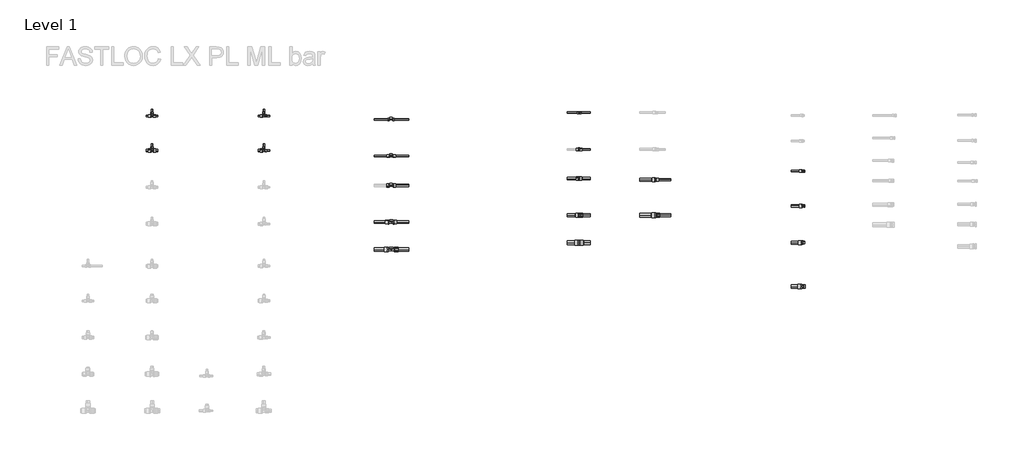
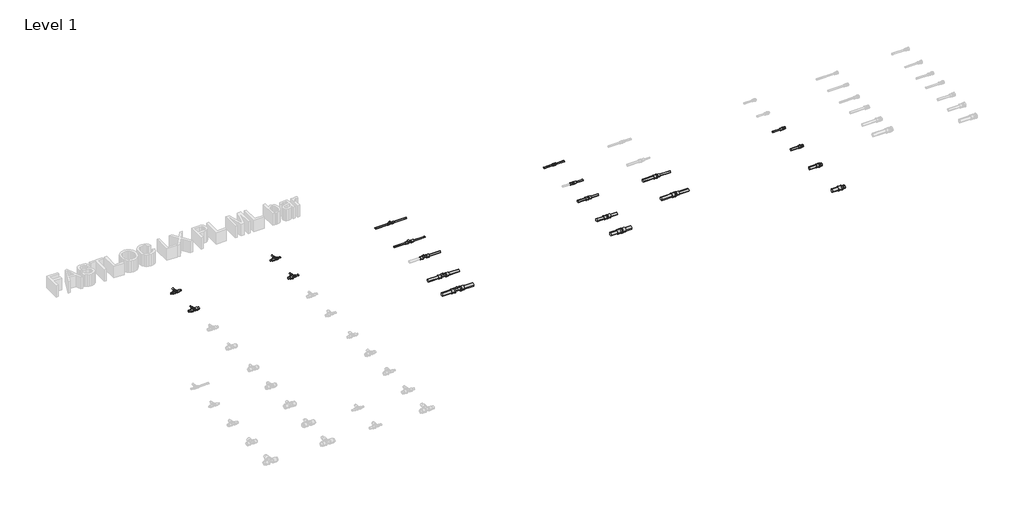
# One storey, part 4 of 78: 38 pipe segments, 20 pipe fittings.
"""IFC4 building model written with IfcOpenShell, lengths in millimetres."""

from ifc_helpers import new_model, si_unit, point, frame, frame_2d, origin, place, context, project, spatial, circle_curve, trimmed, segment, composite_curve, outline, extrude, transform, mapped, element, save
from components import pipe_fitting_027be69e, pipe_fitting_14a26f43, pipe_fitting_91740978, pipe_fitting_5ae7c970, pipe_fitting_e97a97d3, pipe_fitting_8fb58d5f, pipe_fitting_db17a53a, pipe_fitting_d92d4423, pipe_fitting_47d0521d, pipe_fitting_29c4d4eb, pipe_fitting_00caae07, pipe_fitting_1d22680d, pipe_fitting_5e3c5755, pipe_fitting_f5731c1c, pipe_fitting_607ccf76, pipe_fitting_d14a7251, pipe_fitting_ee510fd7, pipe_fitting_a999c26e, pipe_fitting_b01d00d0, pipe_fitting_e8fea69e

model = new_model("IFC4")

# Units and contexts
model_context = context("Model", 3, world=origin())
ifc_project = project(units=[si_unit("LENGTHUNIT", "METRE", prefix="MILLI")], contexts=[model_context])

# Site, building, storey
site = spatial("IfcSite", under=ifc_project)
building = spatial("IfcBuilding", under=site)
storey = spatial("IfcBuildingStorey", under=building, Name="Level 1", Elevation=0.0)

# Pipe fittings
placement = place(None, origin())
pipe_fitting_shape = pipe_fitting_027be69e(model_context)
element("IfcPipeFitting", 1, ObjectType="FASTLOC_Coupling equal LX : FSL C LX PL", at=placement, inside=storey, context=model_context, shape_type="MappedRepresentation", body=[
    mapped(pipe_fitting_shape, transform((5088.3790161, -35505.8821283, 0.0), x_axis=(1.0, 0.0, 0.0), y_axis=(0.0, 1.0, 0.0), z_axis=(0.0, 0.0, 1.0))),
])
pipe_fitting_2_shape = pipe_fitting_14a26f43(model_context)
element("IfcPipeFitting", 2, ObjectType="FASTLOC_Coupling reduced LX : FSL C LX PL", at=placement, inside=storey, context=model_context, shape_type="MappedRepresentation", body=[
    mapped(pipe_fitting_2_shape, transform((5926.6928556, -36625.8821283, 0.0), x_axis=(1.0, 0.0, 0.0), y_axis=(0.0, 1.0, 0.0), z_axis=(0.0, 0.0, 1.0))),
])
pipe_fitting_3_shape = pipe_fitting_91740978(model_context)
element("IfcPipeFitting", 3, ObjectType="FASTLOC_T-piece internal thread LX : FSL T thread LX PL", at=placement, inside=storey, context=model_context, shape_type="MappedRepresentation", body=[
    mapped(pipe_fitting_3_shape, transform((3036.609585, -36699.8272875, 0.0), x_axis=(1.0, 0.0, 0.0), y_axis=(0.0, 1.0, 0.0), z_axis=(0.0, 0.0, 1.0))),
])
pipe_fitting_4_shape = pipe_fitting_5ae7c970(model_context)
element("IfcPipeFitting", 4, ObjectType="FASTLOC_T-piece_LX : FSL T-Piece LX PL", at=placement, inside=storey, context=model_context, shape_type="MappedRepresentation", body=[
    mapped(pipe_fitting_4_shape, transform((426.7498072, -35540.2405791, 0.0), x_axis=(1.0, 0.0, 0.0), y_axis=(0.0, 1.0, 0.0), z_axis=(0.0, 0.0, 1.0))),
])
pipe_fitting_5_shape = pipe_fitting_e97a97d3(model_context)
element("IfcPipeFitting", 5, ObjectType="FASTLOC_T-piece_LX : FSL T-Piece LX PL", at=placement, inside=storey, context=model_context, shape_type="MappedRepresentation", body=[
    mapped(pipe_fitting_5_shape, transform((426.7498072, -35920.2405791, 0.0), x_axis=(1.0, 0.0, 0.0), y_axis=(0.0, 1.0, 0.0), z_axis=(0.0, 0.0, 1.0))),
])
pipe_fitting_6_shape = pipe_fitting_8fb58d5f(model_context)
element("IfcPipeFitting", 6, ObjectType="FASTLOC_T-piece_LX : FSL T-Piece LX PL", at=placement, inside=storey, context=model_context, shape_type="MappedRepresentation", body=[
    mapped(pipe_fitting_6_shape, transform((1646.7498072, -35540.2405791, 0.0), x_axis=(1.0, 0.0, 0.0), y_axis=(0.0, 1.0, 0.0), z_axis=(0.0, 0.0, 1.0))),
])
pipe_fitting_7_shape = pipe_fitting_db17a53a(model_context)
element("IfcPipeFitting", 7, ObjectType="FASTLOC_T-piece_LX : FSL T-Piece LX PL", at=placement, inside=storey, context=model_context, shape_type="MappedRepresentation", body=[
    mapped(pipe_fitting_7_shape, transform((1646.7498072, -35920.2405791, 0.0), x_axis=(1.0, 0.0, 0.0), y_axis=(0.0, 1.0, 0.0), z_axis=(0.0, 0.0, 1.0))),
])
pipe_fitting_8_shape = pipe_fitting_d92d4423(model_context)
element("IfcPipeFitting", 8, ObjectType="FASTLOC_T-piece internal thread LX : FSL T thread LX PL", at=placement, inside=storey, context=model_context, shape_type="MappedRepresentation", body=[
    mapped(pipe_fitting_8_shape, transform((3036.609585, -35579.8272875, 0.0), x_axis=(1.0, 0.0, 0.0), y_axis=(0.0, 1.0, 0.0), z_axis=(0.0, 0.0, 1.0))),
])
pipe_fitting_9_shape = pipe_fitting_47d0521d(model_context)
element("IfcPipeFitting", 9, ObjectType="FASTLOC_T-piece internal thread LX : FSL T thread LX PL", at=placement, inside=storey, context=model_context, shape_type="MappedRepresentation", body=[
    mapped(pipe_fitting_9_shape, transform((3036.609585, -35979.8272875, 0.0), x_axis=(1.0, 0.0, 0.0), y_axis=(0.0, 1.0, 0.0), z_axis=(0.0, 0.0, 1.0))),
])
pipe_fitting_10_shape = pipe_fitting_29c4d4eb(model_context)
element("IfcPipeFitting", 10, ObjectType="FASTLOC_T-piece internal thread LX : FSL T thread LX PL", at=placement, inside=storey, context=model_context, shape_type="MappedRepresentation", body=[
    mapped(pipe_fitting_10_shape, transform((3036.609585, -36299.8272875, 0.0), x_axis=(1.0, 0.0, 0.0), y_axis=(0.0, 1.0, 0.0), z_axis=(0.0, 0.0, 1.0))),
])
pipe_fitting_11_shape = pipe_fitting_00caae07(model_context)
element("IfcPipeFitting", 11, ObjectType="FASTLOC_T-piece internal thread LX : FSL T thread LX PL", at=placement, inside=storey, context=model_context, shape_type="MappedRepresentation", body=[
    mapped(pipe_fitting_11_shape, transform((3036.609585, -36999.8272875, 0.0), x_axis=(1.0, 0.0, 0.0), y_axis=(0.0, 1.0, 0.0), z_axis=(0.0, 0.0, 1.0))),
])
pipe_fitting_12_shape = pipe_fitting_1d22680d(model_context)
element("IfcPipeFitting", 12, ObjectType="FASTLOC_Coupling equal LX : FSL C LX PL", at=placement, inside=storey, context=model_context, shape_type="MappedRepresentation", body=[
    mapped(pipe_fitting_12_shape, transform((5088.3790161, -35905.8821283, 0.0), x_axis=(1.0, 0.0, 0.0), y_axis=(0.0, 1.0, 0.0), z_axis=(0.0, 0.0, 1.0))),
])
pipe_fitting_13_shape = pipe_fitting_5e3c5755(model_context)
element("IfcPipeFitting", 13, ObjectType="FASTLOC_Coupling equal LX : FSL C LX PL", at=placement, inside=storey, context=model_context, shape_type="MappedRepresentation", body=[
    mapped(pipe_fitting_13_shape, transform((5088.3790161, -36225.8821283, 0.0), x_axis=(1.0, 0.0, 0.0), y_axis=(0.0, 1.0, 0.0), z_axis=(0.0, 0.0, 1.0))),
])
pipe_fitting_14_shape = pipe_fitting_f5731c1c(model_context)
element("IfcPipeFitting", 14, ObjectType="FASTLOC_Coupling equal LX : FSL C LX PL", at=placement, inside=storey, context=model_context, shape_type="MappedRepresentation", body=[
    mapped(pipe_fitting_14_shape, transform((5088.3790161, -36625.8821283, 0.0), x_axis=(1.0, 0.0, 0.0), y_axis=(0.0, 1.0, 0.0), z_axis=(0.0, 0.0, 1.0))),
])
pipe_fitting_15_shape = pipe_fitting_607ccf76(model_context)
element("IfcPipeFitting", 15, ObjectType="FASTLOC_Coupling equal LX : FSL C LX PL", at=placement, inside=storey, context=model_context, shape_type="MappedRepresentation", body=[
    mapped(pipe_fitting_15_shape, transform((5088.3790161, -36925.8821283, 0.0), x_axis=(1.0, 0.0, 0.0), y_axis=(0.0, 1.0, 0.0), z_axis=(0.0, 0.0, 1.0))),
])
pipe_fitting_16_shape = pipe_fitting_d14a7251(model_context)
element("IfcPipeFitting", 16, ObjectType="FASTLOC_Coupling reduced LX : FSL C LX PL", at=placement, inside=storey, context=model_context, shape_type="MappedRepresentation", body=[
    mapped(pipe_fitting_16_shape, transform((5926.6928556, -36238.3821283, 0.0), x_axis=(1.0, 0.0, 0.0), y_axis=(0.0, 1.0, 0.0), z_axis=(0.0, 0.0, 1.0))),
])
pipe_fitting_17_shape = pipe_fitting_ee510fd7(model_context)
element("IfcPipeFitting", 17, ObjectType="FASTLOC_Adapter_LX, with external thread : FSL A C external PL", at=placement, inside=storey, context=model_context, shape_type="MappedRepresentation", body=[
    mapped(pipe_fitting_17_shape, transform((7526.8953131, -36144.2068389, 0.0), x_axis=(1.0, 0.0, 0.0), y_axis=(0.0, 1.0, 0.0), z_axis=(0.0, 0.0, 1.0))),
])
pipe_fitting_18_shape = pipe_fitting_a999c26e(model_context)
element("IfcPipeFitting", 18, ObjectType="FASTLOC_Adapter_LX, with external thread : FSL A C external PL", at=placement, inside=storey, context=model_context, shape_type="MappedRepresentation", body=[
    mapped(pipe_fitting_18_shape, transform((7526.8953131, -36524.2068389, 0.0), x_axis=(1.0, 0.0, 0.0), y_axis=(0.0, 1.0, 0.0), z_axis=(0.0, 0.0, 1.0))),
])
pipe_fitting_19_shape = pipe_fitting_b01d00d0(model_context)
element("IfcPipeFitting", 19, ObjectType="FASTLOC_Adapter_LX, with external thread : FSL A C external PL", at=placement, inside=storey, context=model_context, shape_type="MappedRepresentation", body=[
    mapped(pipe_fitting_19_shape, transform((7526.8953131, -36924.2068389, 0.0), x_axis=(1.0, 0.0, 0.0), y_axis=(0.0, 1.0, 0.0), z_axis=(0.0, 0.0, 1.0))),
])
pipe_fitting_20_shape = pipe_fitting_e8fea69e(model_context)
element("IfcPipeFitting", 20, ObjectType="FASTLOC_Adapter_LX, with external thread : FSL A C external PL", at=placement, inside=storey, context=model_context, shape_type="MappedRepresentation", body=[
    mapped(pipe_fitting_20_shape, transform((7526.8953131, -37404.2068389, 0.0), x_axis=(1.0, 0.0, 0.0), y_axis=(0.0, 1.0, 0.0), z_axis=(0.0, 0.0, 1.0))),
])

# Pipe segments
element("IfcPipeSegment", 21, ObjectType="FASTLOC LX ML PL bar", at=placement, inside=storey, context=model_context, shape_type="SweptSolid", body=[
    extrude(outline(composite_curve([segment(trimmed(circle_curve(frame_2d((-35540.2405791, 0.0)), 8.0), [point((-35548.2405791, 0.0))], [point((-35540.2405791, 8.0))], False, "CARTESIAN"), True, "CONTINUOUS"), segment(trimmed(circle_curve(frame_2d((-35540.2405791, 0.0)), 8.0), [point((-35540.2405791, 8.0))], [point((-35532.2405791, 0.0))], False, "CARTESIAN"), True, "CONTINUOUS"), segment(trimmed(circle_curve(frame_2d((-35540.2405791, 0.0)), 8.0), [point((-35532.2405791, 0.0))], [point((-35540.2405791, -8.0))], False, "CARTESIAN"), True, "CONTINUOUS"), segment(trimmed(circle_curve(frame_2d((-35540.2405791, 0.0)), 8.0), [point((-35540.2405791, -8.0))], [point((-35548.2405791, 0.0))], False, "CARTESIAN"), True, "CONTINUOUS")], self_intersect=False)), frame((442.0498072, 0.0, 0.0), z_axis=(1.0, 0.0, 0.0), x_axis=(0.0, 1.0, 0.0)), (0.0, 0.0, 1.0), 46.7),
])
element("IfcPipeSegment", 22, ObjectType="FASTLOC LX ML PL bar", at=placement, inside=storey, context=model_context, shape_type="SweptSolid", body=[
    extrude(outline(composite_curve([segment(trimmed(circle_curve(frame_2d((-35540.2405791, 0.0)), 8.0), [point((-35532.2405791, 0.0))], [point((-35540.2405791, -8.0))], False, "CARTESIAN"), True, "CONTINUOUS"), segment(trimmed(circle_curve(frame_2d((-35540.2405791, 0.0)), 8.0), [point((-35540.2405791, -8.0))], [point((-35548.2405791, 0.0))], False, "CARTESIAN"), True, "CONTINUOUS"), segment(trimmed(circle_curve(frame_2d((-35540.2405791, 0.0)), 8.0), [point((-35548.2405791, 0.0))], [point((-35540.2405791, 8.0))], False, "CARTESIAN"), True, "CONTINUOUS"), segment(trimmed(circle_curve(frame_2d((-35540.2405791, 0.0)), 8.0), [point((-35540.2405791, 8.0))], [point((-35532.2405791, 0.0))], False, "CARTESIAN"), True, "CONTINUOUS")], self_intersect=False)), frame((364.7498072, 0.0, 0.0), z_axis=(1.0, 0.0, 0.0), x_axis=(0.0, 1.0, 0.0)), (0.0, 0.0, 1.0), 46.7),
])
element("IfcPipeSegment", 23, ObjectType="FASTLOC LX ML PL bar", at=placement, inside=storey, context=model_context, shape_type="SweptSolid", body=[
    extrude(outline(composite_curve([segment(trimmed(circle_curve(frame_2d((0.0, 426.7498072)), 8.0), [point((0.0, 434.7498072))], [point((8.0, 426.7498072))], False, "CARTESIAN"), True, "CONTINUOUS"), segment(trimmed(circle_curve(frame_2d((0.0, 426.7498072)), 8.0), [point((8.0, 426.7498072))], [point((0.0, 418.7498072))], False, "CARTESIAN"), True, "CONTINUOUS"), segment(trimmed(circle_curve(frame_2d((0.0, 426.7498072)), 8.0), [point((0.0, 418.7498072))], [point((-8.0, 426.7498072))], False, "CARTESIAN"), True, "CONTINUOUS"), segment(trimmed(circle_curve(frame_2d((0.0, 426.7498072)), 8.0), [point((-8.0, 426.7498072))], [point((0.0, 434.7498072))], False, "CARTESIAN"), True, "CONTINUOUS")], self_intersect=False)), frame((0.0, -35513.9405791, 0.0), z_axis=(0.0, 1.0, 0.0), x_axis=(0.0, 0.0, 1.0)), (0.0, 0.0, 1.0), 46.0),
])
element("IfcPipeSegment", 24, ObjectType="FASTLOC LX ML PL bar", at=placement, inside=storey, context=model_context, shape_type="SweptSolid", body=[
    extrude(outline(composite_curve([segment(trimmed(circle_curve(frame_2d((-35920.2405791, 0.0)), 12.5), [point((-35932.7405791, 0.0))], [point((-35920.2405791, 12.5))], False, "CARTESIAN"), True, "CONTINUOUS"), segment(trimmed(circle_curve(frame_2d((-35920.2405791, 0.0)), 12.5), [point((-35920.2405791, 12.5))], [point((-35907.7405791, 0.0))], False, "CARTESIAN"), True, "CONTINUOUS"), segment(trimmed(circle_curve(frame_2d((-35920.2405791, 0.0)), 12.5), [point((-35907.7405791, 0.0))], [point((-35920.2405791, -12.5))], False, "CARTESIAN"), True, "CONTINUOUS"), segment(trimmed(circle_curve(frame_2d((-35920.2405791, 0.0)), 12.5), [point((-35920.2405791, -12.5))], [point((-35932.7405791, 0.0))], False, "CARTESIAN"), True, "CONTINUOUS")], self_intersect=False)), frame((442.9498072, 0.0, 0.0), z_axis=(1.0, 0.0, 0.0), x_axis=(0.0, 1.0, 0.0)), (0.0, 0.0, 1.0), 45.8),
])
element("IfcPipeSegment", 25, ObjectType="FASTLOC LX ML PL bar", at=placement, inside=storey, context=model_context, shape_type="SweptSolid", body=[
    extrude(outline(composite_curve([segment(trimmed(circle_curve(frame_2d((-35920.2405791, 0.0)), 12.5), [point((-35907.7405791, 0.0))], [point((-35920.2405791, -12.5))], False, "CARTESIAN"), True, "CONTINUOUS"), segment(trimmed(circle_curve(frame_2d((-35920.2405791, 0.0)), 12.5), [point((-35920.2405791, -12.5))], [point((-35932.7405791, 0.0))], False, "CARTESIAN"), True, "CONTINUOUS"), segment(trimmed(circle_curve(frame_2d((-35920.2405791, 0.0)), 12.5), [point((-35932.7405791, 0.0))], [point((-35920.2405791, 12.5))], False, "CARTESIAN"), True, "CONTINUOUS"), segment(trimmed(circle_curve(frame_2d((-35920.2405791, 0.0)), 12.5), [point((-35920.2405791, 12.5))], [point((-35907.7405791, 0.0))], False, "CARTESIAN"), True, "CONTINUOUS")], self_intersect=False)), frame((364.7498072, 0.0, 0.0), z_axis=(1.0, 0.0, 0.0), x_axis=(0.0, 1.0, 0.0)), (0.0, 0.0, 1.0), 45.8),
])
element("IfcPipeSegment", 26, ObjectType="FASTLOC LX ML PL bar", at=placement, inside=storey, context=model_context, shape_type="SweptSolid", body=[
    extrude(outline(composite_curve([segment(trimmed(circle_curve(frame_2d((0.0, 426.7498072)), 8.0), [point((0.0, 434.7498072))], [point((8.0, 426.7498072))], False, "CARTESIAN"), True, "CONTINUOUS"), segment(trimmed(circle_curve(frame_2d((0.0, 426.7498072)), 8.0), [point((8.0, 426.7498072))], [point((0.0, 418.7498072))], False, "CARTESIAN"), True, "CONTINUOUS"), segment(trimmed(circle_curve(frame_2d((0.0, 426.7498072)), 8.0), [point((0.0, 418.7498072))], [point((-8.0, 426.7498072))], False, "CARTESIAN"), True, "CONTINUOUS"), segment(trimmed(circle_curve(frame_2d((0.0, 426.7498072)), 8.0), [point((-8.0, 426.7498072))], [point((0.0, 434.7498072))], False, "CARTESIAN"), True, "CONTINUOUS")], self_intersect=False)), frame((0.0, -35891.2405791, 0.0), z_axis=(0.0, 1.0, 0.0), x_axis=(0.0, 0.0, 1.0)), (0.0, 0.0, 1.0), 43.3),
])
element("IfcPipeSegment", 27, ObjectType="FASTLOC LX ML PL bar", at=placement, inside=storey, context=model_context, shape_type="SweptSolid", body=[
    extrude(outline(composite_curve([segment(trimmed(circle_curve(frame_2d((-35540.2405791, 0.0)), 8.0), [point((-35548.2405791, 0.0))], [point((-35540.2405791, 8.0))], False, "CARTESIAN"), True, "CONTINUOUS"), segment(trimmed(circle_curve(frame_2d((-35540.2405791, 0.0)), 8.0), [point((-35540.2405791, 8.0))], [point((-35532.2405791, 0.0))], False, "CARTESIAN"), True, "CONTINUOUS"), segment(trimmed(circle_curve(frame_2d((-35540.2405791, 0.0)), 8.0), [point((-35532.2405791, 0.0))], [point((-35540.2405791, -8.0))], False, "CARTESIAN"), True, "CONTINUOUS"), segment(trimmed(circle_curve(frame_2d((-35540.2405791, 0.0)), 8.0), [point((-35540.2405791, -8.0))], [point((-35548.2405791, 0.0))], False, "CARTESIAN"), True, "CONTINUOUS")], self_intersect=False)), frame((1661.8498072, 0.0, 0.0), z_axis=(1.0, 0.0, 0.0), x_axis=(0.0, 1.0, 0.0)), (0.0, 0.0, 1.0), 46.9),
])
element("IfcPipeSegment", 28, ObjectType="FASTLOC LX ML PL bar", at=placement, inside=storey, context=model_context, shape_type="SweptSolid", body=[
    extrude(outline(composite_curve([segment(trimmed(circle_curve(frame_2d((-35540.2405791, 0.0)), 8.0), [point((-35532.2405791, 0.0))], [point((-35540.2405791, -8.0))], False, "CARTESIAN"), True, "CONTINUOUS"), segment(trimmed(circle_curve(frame_2d((-35540.2405791, 0.0)), 8.0), [point((-35540.2405791, -8.0))], [point((-35548.2405791, 0.0))], False, "CARTESIAN"), True, "CONTINUOUS"), segment(trimmed(circle_curve(frame_2d((-35540.2405791, 0.0)), 8.0), [point((-35548.2405791, 0.0))], [point((-35540.2405791, 8.0))], False, "CARTESIAN"), True, "CONTINUOUS"), segment(trimmed(circle_curve(frame_2d((-35540.2405791, 0.0)), 8.0), [point((-35540.2405791, 8.0))], [point((-35532.2405791, 0.0))], False, "CARTESIAN"), True, "CONTINUOUS")], self_intersect=False)), frame((1584.7498072, 0.0, 0.0), z_axis=(1.0, 0.0, 0.0), x_axis=(0.0, 1.0, 0.0)), (0.0, 0.0, 1.0), 46.5),
])
element("IfcPipeSegment", 29, ObjectType="FASTLOC LX ML PL bar", at=placement, inside=storey, context=model_context, shape_type="SweptSolid", body=[
    extrude(outline(composite_curve([segment(trimmed(circle_curve(frame_2d((0.0, 1646.7498072)), 8.0), [point((0.0, 1654.7498072))], [point((8.0, 1646.7498072))], False, "CARTESIAN"), True, "CONTINUOUS"), segment(trimmed(circle_curve(frame_2d((0.0, 1646.7498072)), 8.0), [point((8.0, 1646.7498072))], [point((0.0, 1638.7498072))], False, "CARTESIAN"), True, "CONTINUOUS"), segment(trimmed(circle_curve(frame_2d((0.0, 1646.7498072)), 8.0), [point((0.0, 1638.7498072))], [point((-8.0, 1646.7498072))], False, "CARTESIAN"), True, "CONTINUOUS"), segment(trimmed(circle_curve(frame_2d((0.0, 1646.7498072)), 8.0), [point((-8.0, 1646.7498072))], [point((0.0, 1654.7498072))], False, "CARTESIAN"), True, "CONTINUOUS")], self_intersect=False)), frame((0.0, -35513.8405791, 0.0), z_axis=(0.0, 1.0, 0.0), x_axis=(0.0, 0.0, 1.0)), (0.0, 0.0, 1.0), 45.9),
])
element("IfcPipeSegment", 30, ObjectType="FASTLOC LX ML PL bar", at=placement, inside=storey, context=model_context, shape_type="SweptSolid", body=[
    extrude(outline(composite_curve([segment(trimmed(circle_curve(frame_2d((-35920.2405791, 0.0)), 8.0), [point((-35928.2405791, 0.0))], [point((-35920.2405791, 8.0))], False, "CARTESIAN"), True, "CONTINUOUS"), segment(trimmed(circle_curve(frame_2d((-35920.2405791, 0.0)), 8.0), [point((-35920.2405791, 8.0))], [point((-35912.2405791, 0.0))], False, "CARTESIAN"), True, "CONTINUOUS"), segment(trimmed(circle_curve(frame_2d((-35920.2405791, 0.0)), 8.0), [point((-35912.2405791, 0.0))], [point((-35920.2405791, -8.0))], False, "CARTESIAN"), True, "CONTINUOUS"), segment(trimmed(circle_curve(frame_2d((-35920.2405791, 0.0)), 8.0), [point((-35920.2405791, -8.0))], [point((-35928.2405791, 0.0))], False, "CARTESIAN"), True, "CONTINUOUS")], self_intersect=False)), frame((1661.8498072, 0.0, 0.0), z_axis=(1.0, 0.0, 0.0), x_axis=(0.0, 1.0, 0.0)), (0.0, 0.0, 1.0), 46.9),
])
element("IfcPipeSegment", 31, ObjectType="FASTLOC LX ML PL bar", at=placement, inside=storey, context=model_context, shape_type="SweptSolid", body=[
    extrude(outline(composite_curve([segment(trimmed(circle_curve(frame_2d((-35920.2405791, 0.0)), 12.5), [point((-35907.7405791, 0.0))], [point((-35920.2405791, -12.5))], False, "CARTESIAN"), True, "CONTINUOUS"), segment(trimmed(circle_curve(frame_2d((-35920.2405791, 0.0)), 12.5), [point((-35920.2405791, -12.5))], [point((-35932.7405791, 0.0))], False, "CARTESIAN"), True, "CONTINUOUS"), segment(trimmed(circle_curve(frame_2d((-35920.2405791, 0.0)), 12.5), [point((-35932.7405791, 0.0))], [point((-35920.2405791, 12.5))], False, "CARTESIAN"), True, "CONTINUOUS"), segment(trimmed(circle_curve(frame_2d((-35920.2405791, 0.0)), 12.5), [point((-35920.2405791, 12.5))], [point((-35907.7405791, 0.0))], False, "CARTESIAN"), True, "CONTINUOUS")], self_intersect=False)), frame((1584.7498072, 0.0, 0.0), z_axis=(1.0, 0.0, 0.0), x_axis=(0.0, 1.0, 0.0)), (0.0, 0.0, 1.0), 45.6),
])
element("IfcPipeSegment", 32, ObjectType="FASTLOC LX ML PL bar", at=placement, inside=storey, context=model_context, shape_type="SweptSolid", body=[
    extrude(outline(composite_curve([segment(trimmed(circle_curve(frame_2d((0.0, 1646.7498072)), 8.0), [point((0.0, 1654.7498072))], [point((8.0, 1646.7498072))], False, "CARTESIAN"), True, "CONTINUOUS"), segment(trimmed(circle_curve(frame_2d((0.0, 1646.7498072)), 8.0), [point((8.0, 1646.7498072))], [point((0.0, 1638.7498072))], False, "CARTESIAN"), True, "CONTINUOUS"), segment(trimmed(circle_curve(frame_2d((0.0, 1646.7498072)), 8.0), [point((0.0, 1638.7498072))], [point((-8.0, 1646.7498072))], False, "CARTESIAN"), True, "CONTINUOUS"), segment(trimmed(circle_curve(frame_2d((0.0, 1646.7498072)), 8.0), [point((-8.0, 1646.7498072))], [point((0.0, 1654.7498072))], False, "CARTESIAN"), True, "CONTINUOUS")], self_intersect=False)), frame((0.0, -35891.1405791, 0.0), z_axis=(0.0, 1.0, 0.0), x_axis=(0.0, 0.0, 1.0)), (0.0, 0.0, 1.0), 43.2),
])
element("IfcPipeSegment", 33, ObjectType="FASTLOC LX ML PL bar", at=placement, inside=storey, context=model_context, shape_type="SweptSolid", body=[
    extrude(outline(composite_curve([segment(trimmed(circle_curve(frame_2d((-35579.8272875, 0.0)), 8.0), [point((-35587.8272875, 0.0))], [point((-35579.8272875, 8.0))], False, "CARTESIAN"), True, "CONTINUOUS"), segment(trimmed(circle_curve(frame_2d((-35579.8272875, 0.0)), 8.0), [point((-35579.8272875, 8.0))], [point((-35571.8272875, 0.0))], False, "CARTESIAN"), True, "CONTINUOUS"), segment(trimmed(circle_curve(frame_2d((-35579.8272875, 0.0)), 8.0), [point((-35571.8272875, 0.0))], [point((-35579.8272875, -8.0))], False, "CARTESIAN"), True, "CONTINUOUS"), segment(trimmed(circle_curve(frame_2d((-35579.8272875, 0.0)), 8.0), [point((-35579.8272875, -8.0))], [point((-35587.8272875, 0.0))], False, "CARTESIAN"), True, "CONTINUOUS")], self_intersect=False)), frame((3058.609585, 0.0, 0.0), z_axis=(1.0, 0.0, 0.0), x_axis=(0.0, 1.0, 0.0)), (0.0, 0.0, 1.0), 170.0),
])
element("IfcPipeSegment", 34, ObjectType="FASTLOC LX ML PL bar", at=placement, inside=storey, context=model_context, shape_type="SweptSolid", body=[
    extrude(outline(composite_curve([segment(trimmed(circle_curve(frame_2d((-35579.8272875, 0.0)), 8.0), [point((-35571.8272875, 0.0))], [point((-35579.8272875, -8.0))], False, "CARTESIAN"), True, "CONTINUOUS"), segment(trimmed(circle_curve(frame_2d((-35579.8272875, 0.0)), 8.0), [point((-35579.8272875, -8.0))], [point((-35587.8272875, 0.0))], False, "CARTESIAN"), True, "CONTINUOUS"), segment(trimmed(circle_curve(frame_2d((-35579.8272875, 0.0)), 8.0), [point((-35587.8272875, 0.0))], [point((-35579.8272875, 8.0))], False, "CARTESIAN"), True, "CONTINUOUS"), segment(trimmed(circle_curve(frame_2d((-35579.8272875, 0.0)), 8.0), [point((-35579.8272875, 8.0))], [point((-35571.8272875, 0.0))], False, "CARTESIAN"), True, "CONTINUOUS")], self_intersect=False)), frame((2849.609585, 0.0, 0.0), z_axis=(1.0, 0.0, 0.0), x_axis=(0.0, 1.0, 0.0)), (0.0, 0.0, 1.0), 165.0),
])
element("IfcPipeSegment", 35, ObjectType="FASTLOC LX ML PL bar", at=placement, inside=storey, context=model_context, shape_type="SweptSolid", body=[
    extrude(outline(composite_curve([segment(trimmed(circle_curve(frame_2d((-35979.8272875, 0.0)), 8.0), [point((-35987.8272875, 0.0))], [point((-35979.8272875, 8.0))], False, "CARTESIAN"), True, "CONTINUOUS"), segment(trimmed(circle_curve(frame_2d((-35979.8272875, 0.0)), 8.0), [point((-35979.8272875, 8.0))], [point((-35971.8272875, 0.0))], False, "CARTESIAN"), True, "CONTINUOUS"), segment(trimmed(circle_curve(frame_2d((-35979.8272875, 0.0)), 8.0), [point((-35971.8272875, 0.0))], [point((-35979.8272875, -8.0))], False, "CARTESIAN"), True, "CONTINUOUS"), segment(trimmed(circle_curve(frame_2d((-35979.8272875, 0.0)), 8.0), [point((-35979.8272875, -8.0))], [point((-35987.8272875, 0.0))], False, "CARTESIAN"), True, "CONTINUOUS")], self_intersect=False)), frame((3059.109585, 0.0, 0.0), z_axis=(1.0, 0.0, 0.0), x_axis=(0.0, 1.0, 0.0)), (0.0, 0.0, 1.0), 169.5),
])
element("IfcPipeSegment", 36, ObjectType="FASTLOC LX ML PL bar", at=placement, inside=storey, context=model_context, shape_type="SweptSolid", body=[
    extrude(outline(composite_curve([segment(trimmed(circle_curve(frame_2d((-35979.8272875, 0.0)), 8.0), [point((-35971.8272875, 0.0))], [point((-35979.8272875, -8.0))], False, "CARTESIAN"), True, "CONTINUOUS"), segment(trimmed(circle_curve(frame_2d((-35979.8272875, 0.0)), 8.0), [point((-35979.8272875, -8.0))], [point((-35987.8272875, 0.0))], False, "CARTESIAN"), True, "CONTINUOUS"), segment(trimmed(circle_curve(frame_2d((-35979.8272875, 0.0)), 8.0), [point((-35987.8272875, 0.0))], [point((-35979.8272875, 8.0))], False, "CARTESIAN"), True, "CONTINUOUS"), segment(trimmed(circle_curve(frame_2d((-35979.8272875, 0.0)), 8.0), [point((-35979.8272875, 8.0))], [point((-35971.8272875, 0.0))], False, "CARTESIAN"), True, "CONTINUOUS")], self_intersect=False)), frame((2849.609585, 0.0, 0.0), z_axis=(1.0, 0.0, 0.0), x_axis=(0.0, 1.0, 0.0)), (0.0, 0.0, 1.0), 164.5),
])
element("IfcPipeSegment", 37, ObjectType="FASTLOC LX ML PL bar", at=placement, inside=storey, context=model_context, shape_type="SweptSolid", body=[
    extrude(outline(composite_curve([segment(trimmed(circle_curve(frame_2d((-36299.8272875, 0.0)), 12.5), [point((-36312.3272875, 0.0))], [point((-36299.8272875, 12.5))], False, "CARTESIAN"), True, "CONTINUOUS"), segment(trimmed(circle_curve(frame_2d((-36299.8272875, 0.0)), 12.5), [point((-36299.8272875, 12.5))], [point((-36287.3272875, 0.0))], False, "CARTESIAN"), True, "CONTINUOUS"), segment(trimmed(circle_curve(frame_2d((-36299.8272875, 0.0)), 12.5), [point((-36287.3272875, 0.0))], [point((-36299.8272875, -12.5))], False, "CARTESIAN"), True, "CONTINUOUS"), segment(trimmed(circle_curve(frame_2d((-36299.8272875, 0.0)), 12.5), [point((-36299.8272875, -12.5))], [point((-36312.3272875, 0.0))], False, "CARTESIAN"), True, "CONTINUOUS")], self_intersect=False)), frame((3063.309585, 0.0, 0.0), z_axis=(1.0, 0.0, 0.0), x_axis=(0.0, 1.0, 0.0)), (0.0, 0.0, 1.0), 165.3),
])
element("IfcPipeSegment", 38, ObjectType="FASTLOC LX ML PL bar", at=placement, inside=storey, context=model_context, shape_type="SweptSolid", body=[
    extrude(outline(composite_curve([segment(trimmed(circle_curve(frame_2d((-36699.8272875, 0.0)), 16.0), [point((-36715.8272875, 0.0))], [point((-36699.8272875, 16.0))], False, "CARTESIAN"), True, "CONTINUOUS"), segment(trimmed(circle_curve(frame_2d((-36699.8272875, 0.0)), 16.0), [point((-36699.8272875, 16.0))], [point((-36683.8272875, 0.0))], False, "CARTESIAN"), True, "CONTINUOUS"), segment(trimmed(circle_curve(frame_2d((-36699.8272875, 0.0)), 16.0), [point((-36683.8272875, 0.0))], [point((-36699.8272875, -16.0))], False, "CARTESIAN"), True, "CONTINUOUS"), segment(trimmed(circle_curve(frame_2d((-36699.8272875, 0.0)), 16.0), [point((-36699.8272875, -16.0))], [point((-36715.8272875, 0.0))], False, "CARTESIAN"), True, "CONTINUOUS")], self_intersect=False)), frame((3069.609585, 0.0, 0.0), z_axis=(1.0, 0.0, 0.0), x_axis=(0.0, 1.0, 0.0)), (0.0, 0.0, 1.0), 159.0),
])
element("IfcPipeSegment", 39, ObjectType="FASTLOC LX ML PL bar", at=placement, inside=storey, context=model_context, shape_type="SweptSolid", body=[
    extrude(outline(composite_curve([segment(trimmed(circle_curve(frame_2d((-36699.8272875, 0.0)), 16.0), [point((-36683.8272875, 0.0))], [point((-36699.8272875, -16.0))], False, "CARTESIAN"), True, "CONTINUOUS"), segment(trimmed(circle_curve(frame_2d((-36699.8272875, 0.0)), 16.0), [point((-36699.8272875, -16.0))], [point((-36715.8272875, 0.0))], False, "CARTESIAN"), True, "CONTINUOUS"), segment(trimmed(circle_curve(frame_2d((-36699.8272875, 0.0)), 16.0), [point((-36715.8272875, 0.0))], [point((-36699.8272875, 16.0))], False, "CARTESIAN"), True, "CONTINUOUS"), segment(trimmed(circle_curve(frame_2d((-36699.8272875, 0.0)), 16.0), [point((-36699.8272875, 16.0))], [point((-36683.8272875, 0.0))], False, "CARTESIAN"), True, "CONTINUOUS")], self_intersect=False)), frame((2849.609585, 0.0, 0.0), z_axis=(1.0, 0.0, 0.0), x_axis=(0.0, 1.0, 0.0)), (0.0, 0.0, 1.0), 154.0),
])
element("IfcPipeSegment", 40, ObjectType="FASTLOC LX ML PL bar", at=placement, inside=storey, context=model_context, shape_type="SweptSolid", body=[
    extrude(outline(composite_curve([segment(trimmed(circle_curve(frame_2d((-36999.8272875, 0.0)), 20.0), [point((-37019.8272875, 0.0))], [point((-36999.8272875, 20.0))], False, "CARTESIAN"), True, "CONTINUOUS"), segment(trimmed(circle_curve(frame_2d((-36999.8272875, 0.0)), 20.0), [point((-36999.8272875, 20.0))], [point((-36979.8272875, 0.0))], False, "CARTESIAN"), True, "CONTINUOUS"), segment(trimmed(circle_curve(frame_2d((-36999.8272875, 0.0)), 20.0), [point((-36979.8272875, 0.0))], [point((-36999.8272875, -20.0))], False, "CARTESIAN"), True, "CONTINUOUS"), segment(trimmed(circle_curve(frame_2d((-36999.8272875, 0.0)), 20.0), [point((-36999.8272875, -20.0))], [point((-37019.8272875, 0.0))], False, "CARTESIAN"), True, "CONTINUOUS")], self_intersect=False)), frame((3077.909585, 0.0, 0.0), z_axis=(1.0, 0.0, 0.0), x_axis=(0.0, 1.0, 0.0)), (0.0, 0.0, 1.0), 150.7),
])
element("IfcPipeSegment", 41, ObjectType="FASTLOC LX ML PL bar", at=placement, inside=storey, context=model_context, shape_type="SweptSolid", body=[
    extrude(outline(composite_curve([segment(trimmed(circle_curve(frame_2d((-36999.8272875, 0.0)), 20.0), [point((-36979.8272875, 0.0))], [point((-36999.8272875, -20.0))], False, "CARTESIAN"), True, "CONTINUOUS"), segment(trimmed(circle_curve(frame_2d((-36999.8272875, 0.0)), 20.0), [point((-36999.8272875, -20.0))], [point((-37019.8272875, 0.0))], False, "CARTESIAN"), True, "CONTINUOUS"), segment(trimmed(circle_curve(frame_2d((-36999.8272875, 0.0)), 20.0), [point((-37019.8272875, 0.0))], [point((-36999.8272875, 20.0))], False, "CARTESIAN"), True, "CONTINUOUS"), segment(trimmed(circle_curve(frame_2d((-36999.8272875, 0.0)), 20.0), [point((-36999.8272875, 20.0))], [point((-36979.8272875, 0.0))], False, "CARTESIAN"), True, "CONTINUOUS")], self_intersect=False)), frame((2849.609585, 0.0, 0.0), z_axis=(1.0, 0.0, 0.0), x_axis=(0.0, 1.0, 0.0)), (0.0, 0.0, 1.0), 145.7),
])
element("IfcPipeSegment", 42, ObjectType="FASTLOC LX ML PL bar", at=placement, inside=storey, context=model_context, shape_type="SweptSolid", body=[
    extrude(outline(composite_curve([segment(trimmed(circle_curve(frame_2d((-35505.8821283, 0.0)), 8.0), [point((-35513.8821283, 0.0))], [point((-35505.8821283, 8.0))], False, "CARTESIAN"), True, "CONTINUOUS"), segment(trimmed(circle_curve(frame_2d((-35505.8821283, 0.0)), 8.0), [point((-35505.8821283, 8.0))], [point((-35497.8821283, 0.0))], False, "CARTESIAN"), True, "CONTINUOUS"), segment(trimmed(circle_curve(frame_2d((-35505.8821283, 0.0)), 8.0), [point((-35497.8821283, 0.0))], [point((-35505.8821283, -8.0))], False, "CARTESIAN"), True, "CONTINUOUS"), segment(trimmed(circle_curve(frame_2d((-35505.8821283, 0.0)), 8.0), [point((-35505.8821283, -8.0))], [point((-35513.8821283, 0.0))], False, "CARTESIAN"), True, "CONTINUOUS")], self_intersect=False)), frame((5095.5790161, 0.0, 0.0), z_axis=(1.0, 0.0, 0.0), x_axis=(0.0, 1.0, 0.0)), (0.0, 0.0, 1.0), 115.0),
])
element("IfcPipeSegment", 43, ObjectType="FASTLOC LX ML PL bar", at=placement, inside=storey, context=model_context, shape_type="SweptSolid", body=[
    extrude(outline(composite_curve([segment(trimmed(circle_curve(frame_2d((-35505.8821283, 0.0)), 8.0), [point((-35497.8821283, 0.0))], [point((-35505.8821283, -8.0))], False, "CARTESIAN"), True, "CONTINUOUS"), segment(trimmed(circle_curve(frame_2d((-35505.8821283, 0.0)), 8.0), [point((-35505.8821283, -8.0))], [point((-35513.8821283, 0.0))], False, "CARTESIAN"), True, "CONTINUOUS"), segment(trimmed(circle_curve(frame_2d((-35505.8821283, 0.0)), 8.0), [point((-35513.8821283, 0.0))], [point((-35505.8821283, 8.0))], False, "CARTESIAN"), True, "CONTINUOUS"), segment(trimmed(circle_curve(frame_2d((-35505.8821283, 0.0)), 8.0), [point((-35505.8821283, 8.0))], [point((-35497.8821283, 0.0))], False, "CARTESIAN"), True, "CONTINUOUS")], self_intersect=False)), frame((4961.1790161, 0.0, 0.0), z_axis=(1.0, 0.0, 0.0), x_axis=(0.0, 1.0, 0.0)), (0.0, 0.0, 1.0), 120.0),
])
element("IfcPipeSegment", 44, ObjectType="FASTLOC LX ML PL bar", at=placement, inside=storey, context=model_context, shape_type="SweptSolid", body=[
    extrude(outline(composite_curve([segment(trimmed(circle_curve(frame_2d((-35905.8821283, 0.0)), 8.0), [point((-35913.8821283, 0.0))], [point((-35905.8821283, 8.0))], False, "CARTESIAN"), True, "CONTINUOUS"), segment(trimmed(circle_curve(frame_2d((-35905.8821283, 0.0)), 8.0), [point((-35905.8821283, 8.0))], [point((-35897.8821283, 0.0))], False, "CARTESIAN"), True, "CONTINUOUS"), segment(trimmed(circle_curve(frame_2d((-35905.8821283, 0.0)), 8.0), [point((-35897.8821283, 0.0))], [point((-35905.8821283, -8.0))], False, "CARTESIAN"), True, "CONTINUOUS"), segment(trimmed(circle_curve(frame_2d((-35905.8821283, 0.0)), 8.0), [point((-35905.8821283, -8.0))], [point((-35913.8821283, 0.0))], False, "CARTESIAN"), True, "CONTINUOUS")], self_intersect=False)), frame((5095.7790161, 0.0, 0.0), z_axis=(1.0, 0.0, 0.0), x_axis=(0.0, 1.0, 0.0)), (0.0, 0.0, 1.0), 114.8),
])
element("IfcPipeSegment", 45, ObjectType="FASTLOC LX ML PL bar", at=placement, inside=storey, context=model_context, shape_type="SweptSolid", body=[
    extrude(outline(composite_curve([segment(trimmed(circle_curve(frame_2d((-36225.8821283, 0.0)), 12.5), [point((-36238.3821283, 0.0))], [point((-36225.8821283, 12.5))], False, "CARTESIAN"), True, "CONTINUOUS"), segment(trimmed(circle_curve(frame_2d((-36225.8821283, 0.0)), 12.5), [point((-36225.8821283, 12.5))], [point((-36213.3821283, 0.0))], False, "CARTESIAN"), True, "CONTINUOUS"), segment(trimmed(circle_curve(frame_2d((-36225.8821283, 0.0)), 12.5), [point((-36213.3821283, 0.0))], [point((-36225.8821283, -12.5))], False, "CARTESIAN"), True, "CONTINUOUS"), segment(trimmed(circle_curve(frame_2d((-36225.8821283, 0.0)), 12.5), [point((-36225.8821283, -12.5))], [point((-36238.3821283, 0.0))], False, "CARTESIAN"), True, "CONTINUOUS")], self_intersect=False)), frame((5096.3790161, 0.0, 0.0), z_axis=(1.0, 0.0, 0.0), x_axis=(0.0, 1.0, 0.0)), (0.0, 0.0, 1.0), 114.2),
])
element("IfcPipeSegment", 46, ObjectType="FASTLOC LX ML PL bar", at=placement, inside=storey, context=model_context, shape_type="SweptSolid", body=[
    extrude(outline(composite_curve([segment(trimmed(circle_curve(frame_2d((-36225.8821283, 0.0)), 12.5), [point((-36213.3821283, 0.0))], [point((-36225.8821283, -12.5))], False, "CARTESIAN"), True, "CONTINUOUS"), segment(trimmed(circle_curve(frame_2d((-36225.8821283, 0.0)), 12.5), [point((-36225.8821283, -12.5))], [point((-36238.3821283, 0.0))], False, "CARTESIAN"), True, "CONTINUOUS"), segment(trimmed(circle_curve(frame_2d((-36225.8821283, 0.0)), 12.5), [point((-36238.3821283, 0.0))], [point((-36225.8821283, 12.5))], False, "CARTESIAN"), True, "CONTINUOUS"), segment(trimmed(circle_curve(frame_2d((-36225.8821283, 0.0)), 12.5), [point((-36225.8821283, 12.5))], [point((-36213.3821283, 0.0))], False, "CARTESIAN"), True, "CONTINUOUS")], self_intersect=False)), frame((4961.1790161, 0.0, 0.0), z_axis=(1.0, 0.0, 0.0), x_axis=(0.0, 1.0, 0.0)), (0.0, 0.0, 1.0), 119.2),
])
element("IfcPipeSegment", 47, ObjectType="FASTLOC LX ML PL bar", at=placement, inside=storey, context=model_context, shape_type="SweptSolid", body=[
    extrude(outline(composite_curve([segment(trimmed(circle_curve(frame_2d((-36625.8821283, 0.0)), 16.0), [point((-36641.8821283, 0.0))], [point((-36625.8821283, 16.0))], False, "CARTESIAN"), True, "CONTINUOUS"), segment(trimmed(circle_curve(frame_2d((-36625.8821283, 0.0)), 16.0), [point((-36625.8821283, 16.0))], [point((-36609.8821283, 0.0))], False, "CARTESIAN"), True, "CONTINUOUS"), segment(trimmed(circle_curve(frame_2d((-36625.8821283, 0.0)), 16.0), [point((-36609.8821283, 0.0))], [point((-36625.8821283, -16.0))], False, "CARTESIAN"), True, "CONTINUOUS"), segment(trimmed(circle_curve(frame_2d((-36625.8821283, 0.0)), 16.0), [point((-36625.8821283, -16.0))], [point((-36641.8821283, 0.0))], False, "CARTESIAN"), True, "CONTINUOUS")], self_intersect=False)), frame((5098.3790161, 0.0, 0.0), z_axis=(1.0, 0.0, 0.0), x_axis=(0.0, 1.0, 0.0)), (0.0, 0.0, 1.0), 112.2),
])
element("IfcPipeSegment", 48, ObjectType="FASTLOC LX ML PL bar", at=placement, inside=storey, context=model_context, shape_type="SweptSolid", body=[
    extrude(outline(composite_curve([segment(trimmed(circle_curve(frame_2d((-36625.8821283, 0.0)), 16.0), [point((-36609.8821283, 0.0))], [point((-36625.8821283, -16.0))], False, "CARTESIAN"), True, "CONTINUOUS"), segment(trimmed(circle_curve(frame_2d((-36625.8821283, 0.0)), 16.0), [point((-36625.8821283, -16.0))], [point((-36641.8821283, 0.0))], False, "CARTESIAN"), True, "CONTINUOUS"), segment(trimmed(circle_curve(frame_2d((-36625.8821283, 0.0)), 16.0), [point((-36641.8821283, 0.0))], [point((-36625.8821283, 16.0))], False, "CARTESIAN"), True, "CONTINUOUS"), segment(trimmed(circle_curve(frame_2d((-36625.8821283, 0.0)), 16.0), [point((-36625.8821283, 16.0))], [point((-36609.8821283, 0.0))], False, "CARTESIAN"), True, "CONTINUOUS")], self_intersect=False)), frame((4961.1790161, 0.0, 0.0), z_axis=(1.0, 0.0, 0.0), x_axis=(0.0, 1.0, 0.0)), (0.0, 0.0, 1.0), 117.2),
])
element("IfcPipeSegment", 49, ObjectType="FASTLOC LX ML PL bar", at=placement, inside=storey, context=model_context, shape_type="SweptSolid", body=[
    extrude(outline(composite_curve([segment(trimmed(circle_curve(frame_2d((-36925.8821283, 0.0)), 20.0), [point((-36945.8821283, 0.0))], [point((-36925.8821283, 20.0))], False, "CARTESIAN"), True, "CONTINUOUS"), segment(trimmed(circle_curve(frame_2d((-36925.8821283, 0.0)), 20.0), [point((-36925.8821283, 20.0))], [point((-36905.8821283, 0.0))], False, "CARTESIAN"), True, "CONTINUOUS"), segment(trimmed(circle_curve(frame_2d((-36925.8821283, 0.0)), 20.0), [point((-36905.8821283, 0.0))], [point((-36925.8821283, -20.0))], False, "CARTESIAN"), True, "CONTINUOUS"), segment(trimmed(circle_curve(frame_2d((-36925.8821283, 0.0)), 20.0), [point((-36925.8821283, -20.0))], [point((-36945.8821283, 0.0))], False, "CARTESIAN"), True, "CONTINUOUS")], self_intersect=False)), frame((5101.0790161, 0.0, 0.0), z_axis=(1.0, 0.0, 0.0), x_axis=(0.0, 1.0, 0.0)), (0.0, 0.0, 1.0), 109.5),
])
element("IfcPipeSegment", 50, ObjectType="FASTLOC LX ML PL bar", at=placement, inside=storey, context=model_context, shape_type="SweptSolid", body=[
    extrude(outline(composite_curve([segment(trimmed(circle_curve(frame_2d((-36925.8821283, 0.0)), 20.0), [point((-36905.8821283, 0.0))], [point((-36925.8821283, -20.0))], False, "CARTESIAN"), True, "CONTINUOUS"), segment(trimmed(circle_curve(frame_2d((-36925.8821283, 0.0)), 20.0), [point((-36925.8821283, -20.0))], [point((-36945.8821283, 0.0))], False, "CARTESIAN"), True, "CONTINUOUS"), segment(trimmed(circle_curve(frame_2d((-36925.8821283, 0.0)), 20.0), [point((-36945.8821283, 0.0))], [point((-36925.8821283, 20.0))], False, "CARTESIAN"), True, "CONTINUOUS"), segment(trimmed(circle_curve(frame_2d((-36925.8821283, 0.0)), 20.0), [point((-36925.8821283, 20.0))], [point((-36905.8821283, 0.0))], False, "CARTESIAN"), True, "CONTINUOUS")], self_intersect=False)), frame((4961.1790161, 0.0, 0.0), z_axis=(1.0, 0.0, 0.0), x_axis=(0.0, 1.0, 0.0)), (0.0, 0.0, 1.0), 114.5),
])
element("IfcPipeSegment", 51, ObjectType="FASTLOC LX ML PL bar", at=placement, inside=storey, context=model_context, shape_type="SweptSolid", body=[
    extrude(outline(composite_curve([segment(trimmed(circle_curve(frame_2d((-36625.8821283, 0.0)), 20.0), [point((-36605.8821283, 0.0))], [point((-36625.8821283, -20.0))], False, "CARTESIAN"), True, "CONTINUOUS"), segment(trimmed(circle_curve(frame_2d((-36625.8821283, 0.0)), 20.0), [point((-36625.8821283, -20.0))], [point((-36645.8821283, 0.0))], False, "CARTESIAN"), True, "CONTINUOUS"), segment(trimmed(circle_curve(frame_2d((-36625.8821283, 0.0)), 20.0), [point((-36645.8821283, 0.0))], [point((-36625.8821283, 20.0))], False, "CARTESIAN"), True, "CONTINUOUS"), segment(trimmed(circle_curve(frame_2d((-36625.8821283, 0.0)), 20.0), [point((-36625.8821283, 20.0))], [point((-36605.8821283, 0.0))], False, "CARTESIAN"), True, "CONTINUOUS")], self_intersect=False)), frame((5752.9928556, 0.0, 0.0), z_axis=(1.0, 0.0, 0.0), x_axis=(0.0, 1.0, 0.0)), (0.0, 0.0, 1.0), 162.1),
])
element("IfcPipeSegment", 52, ObjectType="FASTLOC LX ML PL bar", at=placement, inside=storey, context=model_context, shape_type="SweptSolid", body=[
    extrude(outline(composite_curve([segment(trimmed(circle_curve(frame_2d((-36625.8821283, 0.0)), 16.0), [point((-36641.8821283, 0.0))], [point((-36625.8821283, 16.0))], False, "CARTESIAN"), True, "CONTINUOUS"), segment(trimmed(circle_curve(frame_2d((-36625.8821283, 0.0)), 16.0), [point((-36625.8821283, 16.0))], [point((-36609.8821283, 0.0))], False, "CARTESIAN"), True, "CONTINUOUS"), segment(trimmed(circle_curve(frame_2d((-36625.8821283, 0.0)), 16.0), [point((-36609.8821283, 0.0))], [point((-36625.8821283, -16.0))], False, "CARTESIAN"), True, "CONTINUOUS"), segment(trimmed(circle_curve(frame_2d((-36625.8821283, 0.0)), 16.0), [point((-36625.8821283, -16.0))], [point((-36641.8821283, 0.0))], False, "CARTESIAN"), True, "CONTINUOUS")], self_intersect=False)), frame((5937.5928556, 0.0, 0.0), z_axis=(1.0, 0.0, 0.0), x_axis=(0.0, 1.0, 0.0)), (0.0, 0.0, 1.0), 150.0),
])
element("IfcPipeSegment", 53, ObjectType="FASTLOC LX ML PL bar", at=placement, inside=storey, context=model_context, shape_type="SweptSolid", body=[
    extrude(outline(composite_curve([segment(trimmed(circle_curve(frame_2d((-36144.2068389, 0.0)), 8.0), [point((-36136.2068389, 0.0))], [point((-36144.2068389, -8.0))], False, "CARTESIAN"), True, "CONTINUOUS"), segment(trimmed(circle_curve(frame_2d((-36144.2068389, 0.0)), 8.0), [point((-36144.2068389, -8.0))], [point((-36152.2068389, 0.0))], False, "CARTESIAN"), True, "CONTINUOUS"), segment(trimmed(circle_curve(frame_2d((-36144.2068389, 0.0)), 8.0), [point((-36152.2068389, 0.0))], [point((-36144.2068389, 8.0))], False, "CARTESIAN"), True, "CONTINUOUS"), segment(trimmed(circle_curve(frame_2d((-36144.2068389, 0.0)), 8.0), [point((-36144.2068389, 8.0))], [point((-36136.2068389, 0.0))], False, "CARTESIAN"), True, "CONTINUOUS")], self_intersect=False)), frame((7402.0785179, 0.0, 0.0), z_axis=(1.0, 0.0, 0.0), x_axis=(0.0, 1.0, 0.0)), (0.0, 0.0, 1.0), 115.5167951),
])
element("IfcPipeSegment", 54, ObjectType="FASTLOC LX ML PL bar", at=placement, inside=storey, context=model_context, shape_type="SweptSolid", body=[
    extrude(outline(composite_curve([segment(trimmed(circle_curve(frame_2d((-36524.2068389, 0.0)), 12.5), [point((-36511.7068389, 0.0))], [point((-36524.2068389, -12.5))], False, "CARTESIAN"), True, "CONTINUOUS"), segment(trimmed(circle_curve(frame_2d((-36524.2068389, 0.0)), 12.5), [point((-36524.2068389, -12.5))], [point((-36536.7068389, 0.0))], False, "CARTESIAN"), True, "CONTINUOUS"), segment(trimmed(circle_curve(frame_2d((-36524.2068389, 0.0)), 12.5), [point((-36536.7068389, 0.0))], [point((-36524.2068389, 12.5))], False, "CARTESIAN"), True, "CONTINUOUS"), segment(trimmed(circle_curve(frame_2d((-36524.2068389, 0.0)), 12.5), [point((-36524.2068389, 12.5))], [point((-36511.7068389, 0.0))], False, "CARTESIAN"), True, "CONTINUOUS")], self_intersect=False)), frame((7402.0785179, 0.0, 0.0), z_axis=(1.0, 0.0, 0.0), x_axis=(0.0, 1.0, 0.0)), (0.0, 0.0, 1.0), 115.4167951),
])
element("IfcPipeSegment", 55, ObjectType="FASTLOC LX ML PL bar", at=placement, inside=storey, context=model_context, shape_type="SweptSolid", body=[
    extrude(outline(composite_curve([segment(trimmed(circle_curve(frame_2d((-36924.2068389, 0.0)), 16.0), [point((-36908.2068389, 0.0))], [point((-36924.2068389, -16.0))], False, "CARTESIAN"), True, "CONTINUOUS"), segment(trimmed(circle_curve(frame_2d((-36924.2068389, 0.0)), 16.0), [point((-36924.2068389, -16.0))], [point((-36940.2068389, 0.0))], False, "CARTESIAN"), True, "CONTINUOUS"), segment(trimmed(circle_curve(frame_2d((-36924.2068389, 0.0)), 16.0), [point((-36940.2068389, 0.0))], [point((-36924.2068389, 16.0))], False, "CARTESIAN"), True, "CONTINUOUS"), segment(trimmed(circle_curve(frame_2d((-36924.2068389, 0.0)), 16.0), [point((-36924.2068389, 16.0))], [point((-36908.2068389, 0.0))], False, "CARTESIAN"), True, "CONTINUOUS")], self_intersect=False)), frame((7402.0785179, 0.0, 0.0), z_axis=(1.0, 0.0, 0.0), x_axis=(0.0, 1.0, 0.0)), (0.0, 0.0, 1.0), 110.2167951),
])
element("IfcPipeSegment", 56, ObjectType="FASTLOC LX ML PL bar", at=placement, inside=storey, context=model_context, shape_type="SweptSolid", body=[
    extrude(outline(composite_curve([segment(trimmed(circle_curve(frame_2d((-37404.2068389, 0.0)), 20.0), [point((-37384.2068389, 0.0))], [point((-37404.2068389, -20.0))], False, "CARTESIAN"), True, "CONTINUOUS"), segment(trimmed(circle_curve(frame_2d((-37404.2068389, 0.0)), 20.0), [point((-37404.2068389, -20.0))], [point((-37424.2068389, 0.0))], False, "CARTESIAN"), True, "CONTINUOUS"), segment(trimmed(circle_curve(frame_2d((-37404.2068389, 0.0)), 20.0), [point((-37424.2068389, 0.0))], [point((-37404.2068389, 20.0))], False, "CARTESIAN"), True, "CONTINUOUS"), segment(trimmed(circle_curve(frame_2d((-37404.2068389, 0.0)), 20.0), [point((-37404.2068389, 20.0))], [point((-37384.2068389, 0.0))], False, "CARTESIAN"), True, "CONTINUOUS")], self_intersect=False)), frame((7402.0785179, 0.0, 0.0), z_axis=(1.0, 0.0, 0.0), x_axis=(0.0, 1.0, 0.0)), (0.0, 0.0, 1.0), 108.4167951),
])
element("IfcPipeSegment", 57, ObjectType="FASTLOC LX ML PL bar", at=placement, inside=storey, context=model_context, shape_type="SweptSolid", body=[
    extrude(outline(composite_curve([segment(trimmed(circle_curve(frame_2d((-36238.3821283, 0.0)), 16.0), [point((-36222.3821283, 0.0))], [point((-36238.3821283, -16.0))], False, "CARTESIAN"), True, "CONTINUOUS"), segment(trimmed(circle_curve(frame_2d((-36238.3821283, 0.0)), 16.0), [point((-36238.3821283, -16.0))], [point((-36254.3821283, 0.0))], False, "CARTESIAN"), True, "CONTINUOUS"), segment(trimmed(circle_curve(frame_2d((-36238.3821283, 0.0)), 16.0), [point((-36254.3821283, 0.0))], [point((-36238.3821283, 16.0))], False, "CARTESIAN"), True, "CONTINUOUS"), segment(trimmed(circle_curve(frame_2d((-36238.3821283, 0.0)), 16.0), [point((-36238.3821283, 16.0))], [point((-36222.3821283, 0.0))], False, "CARTESIAN"), True, "CONTINUOUS")], self_intersect=False)), frame((5752.9928556, 0.0, 0.0), z_axis=(1.0, 0.0, 0.0), x_axis=(0.0, 1.0, 0.0)), (0.0, 0.0, 1.0), 161.3),
])
element("IfcPipeSegment", 58, ObjectType="FASTLOC LX ML PL bar", at=placement, inside=storey, context=model_context, shape_type="SweptSolid", body=[
    extrude(outline(composite_curve([segment(trimmed(circle_curve(frame_2d((-36238.3821283, 0.0)), 12.5), [point((-36250.8821283, 0.0))], [point((-36238.3821283, 12.5))], False, "CARTESIAN"), True, "CONTINUOUS"), segment(trimmed(circle_curve(frame_2d((-36238.3821283, 0.0)), 12.5), [point((-36238.3821283, 12.5))], [point((-36225.8821283, 0.0))], False, "CARTESIAN"), True, "CONTINUOUS"), segment(trimmed(circle_curve(frame_2d((-36238.3821283, 0.0)), 12.5), [point((-36225.8821283, 0.0))], [point((-36238.3821283, -12.5))], False, "CARTESIAN"), True, "CONTINUOUS"), segment(trimmed(circle_curve(frame_2d((-36238.3821283, 0.0)), 12.5), [point((-36238.3821283, -12.5))], [point((-36250.8821283, 0.0))], False, "CARTESIAN"), True, "CONTINUOUS")], self_intersect=False)), frame((5932.4928556, 0.0, 0.0), z_axis=(1.0, 0.0, 0.0), x_axis=(0.0, 1.0, 0.0)), (0.0, 0.0, 1.0), 155.1),
])

save(model, "model.ifc")
